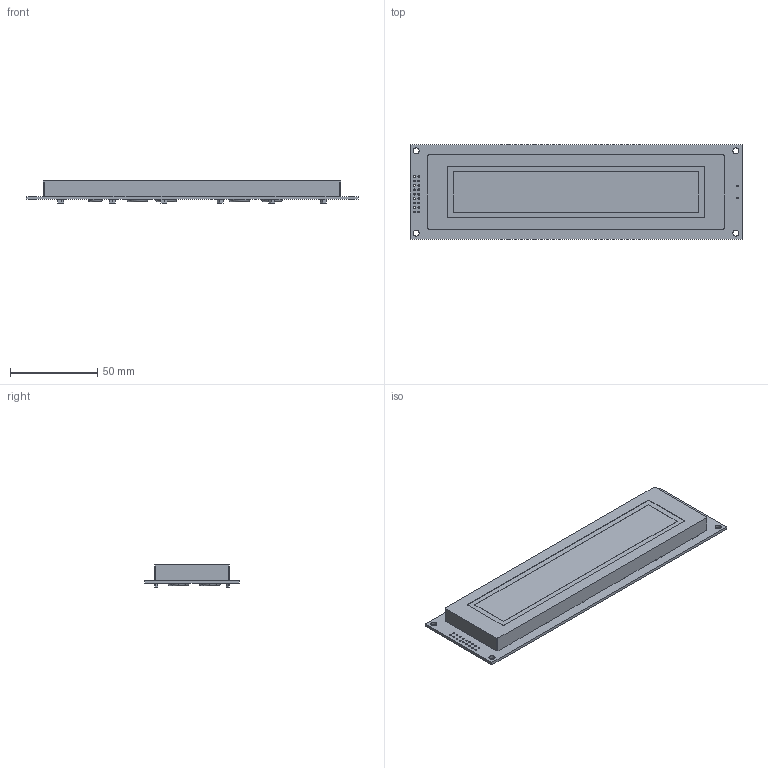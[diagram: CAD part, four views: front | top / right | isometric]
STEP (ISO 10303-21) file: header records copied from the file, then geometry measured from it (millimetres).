
FILE_DESCRIPTION (( 'STEP AP214' ), '1' );
FILE_NAME ('NHD-0440AZ-FL-YBW.STEP', '2018-03-12T17:48:12', ( '' ), ( '' ), 'SwSTEP 2.0', 'SolidWorks 2018', '' );
FILE_SCHEMA (( 'AUTOMOTIVE_DESIGN' ));
Length unit declared in the file: millimetre
Products named in the file (1): NHD-0440AZ-FL-YBW
Bounding box: 190 x 54 x 12.6 mm (x, y, z)
Volume: 80686.3 mm3; surface area: 25869.9 mm2
Topology: 1 solids, 1 shells, 315 faces, 888 edges, 572 vertices
Faces by surface type: plane 203, cylinder 100, torus 12
Entity records: 13761 total; most frequent: CARTESIAN_POINT 1776, ORIENTED_EDGE 1776, DIRECTION 1756, EDGE_CURVE 888, VECTOR 652, LINE 652, VERTEX_POINT 572, AXIS2_PLACEMENT_3D 552
